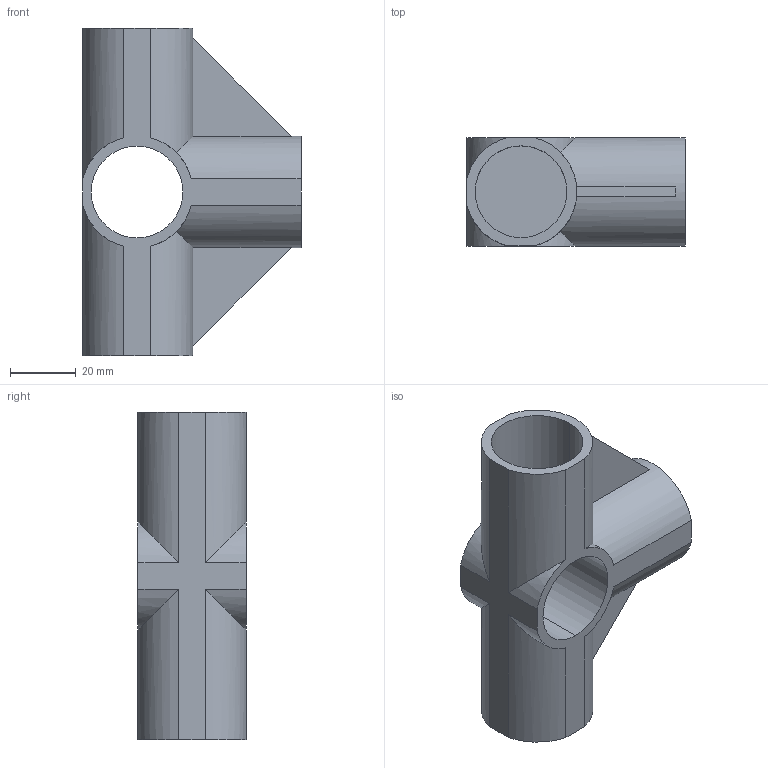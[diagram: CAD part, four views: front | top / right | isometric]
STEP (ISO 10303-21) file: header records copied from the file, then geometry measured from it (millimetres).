
FILE_DESCRIPTION (( 'STEP AP214' ), '1' );
FILE_NAME ('PJ-207B.STEP', '2023-09-12T11:04:42', ( 'catia' ), ( 'HP Inc.' ), 'SwSTEP 2.0', 'SolidWorks 2021', '' );
FILE_SCHEMA (( 'AUTOMOTIVE_DESIGN' ));
Length unit declared in the file: millimetre
Products named in the file (1): PJ-207B
Bounding box: 66.5 x 33 x 100 mm (x, y, z)
Volume: 51335.8 mm3; surface area: 28131.2 mm2
Topology: 1 solids, 1 shells, 41 faces, 108 edges, 72 vertices
Faces by surface type: cylinder 26, plane 15
Entity records: 1314 total; most frequent: CARTESIAN_POINT 288, ORIENTED_EDGE 216, DIRECTION 204, EDGE_CURVE 108, AXIS2_PLACEMENT_3D 76, VERTEX_POINT 72, LINE 52, VECTOR 52
